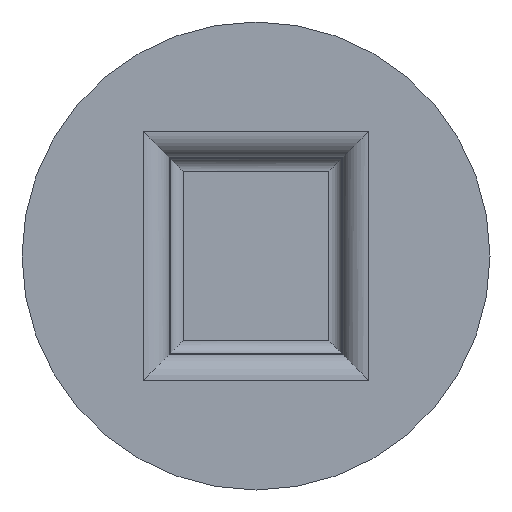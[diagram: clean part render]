
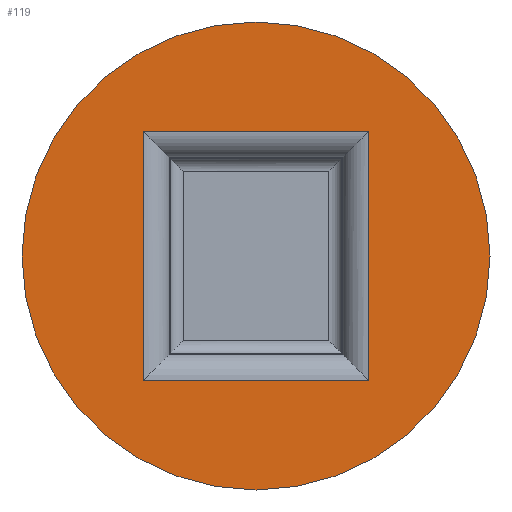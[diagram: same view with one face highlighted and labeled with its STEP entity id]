
A CAD part, front view. The second image highlights one B-rep face of the part: STEP entity #119.
In plain terms, the highlighted planar face has unit normal (0, -1, 0).
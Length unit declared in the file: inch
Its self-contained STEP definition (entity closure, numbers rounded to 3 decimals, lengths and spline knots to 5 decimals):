
#23 = CARTESIAN_POINT ( 'NONE',  ( 0.01133, -0.125, 0.38411 ) ) ;
#49 = CIRCLE ( 'NONE', #860, 0.625 ) ;
#51 = ORIENTED_EDGE ( 'NONE', *, *, #180, .T. ) ;
#82 = CARTESIAN_POINT ( 'NONE',  ( 0.01133, -0.125, 0.05114 ) ) ;
#86 = LINE ( 'NONE', #545, #833 ) ;
#89 = VERTEX_POINT ( 'NONE', #525 ) ;
#93 = ORIENTED_EDGE ( 'NONE', *, *, #326, .F. ) ;
#119 = ADVANCED_FACE ( 'NONE', ( #225, #218 ), #357, .T. ) ;
#145 = VERTEX_POINT ( 'NONE', #748 ) ;
#147 = VECTOR ( 'NONE', #820, 39.37008 ) ;
#158 = EDGE_CURVE ( 'NONE', #625, #89, #566, .T. ) ;
#162 = ORIENTED_EDGE ( 'NONE', *, *, #158, .F. ) ;
#168 = CARTESIAN_POINT ( 'NONE',  ( 0.3128, -0.125, 0.38411 ) ) ;
#180 = EDGE_CURVE ( 'NONE', #145, #247, #637, .T. ) ;
#218 = FACE_OUTER_BOUND ( 'NONE', #396, .T. ) ;
#221 = DIRECTION ( 'NONE',  ( 0., 0., -1. ) ) ;
#225 = FACE_BOUND ( 'NONE', #472, .T. ) ;
#234 = VERTEX_POINT ( 'NONE', #316 ) ;
#240 = AXIS2_PLACEMENT_3D ( 'NONE', #552, #492, #483 ) ;
#247 = VERTEX_POINT ( 'NONE', #300 ) ;
#278 = LINE ( 'NONE', #348, #696 ) ;
#300 = CARTESIAN_POINT ( 'NONE',  ( 0.01133, -0.125, 0.67614 ) ) ;
#312 = LINE ( 'NONE', #449, #493 ) ;
#316 = CARTESIAN_POINT ( 'NONE',  ( -0.29014, -0.125, -0.28183 ) ) ;
#318 = DIRECTION ( 'NONE',  ( 0., 0., -1. ) ) ;
#326 = EDGE_CURVE ( 'NONE', #89, #234, #312, .T. ) ;
#348 = CARTESIAN_POINT ( 'NONE',  ( 0.01133, -0.125, -0.28183 ) ) ;
#357 = PLANE ( 'NONE',  #240 ) ;
#389 = ORIENTED_EDGE ( 'NONE', *, *, #515, .F. ) ;
#396 = EDGE_LOOP ( 'NONE', ( #51, #648 ) ) ;
#449 = CARTESIAN_POINT ( 'NONE',  ( -0.29014, -0.125, 0.05114 ) ) ;
#454 = DIRECTION ( 'NONE',  ( 0., -1., 0. ) ) ;
#472 = EDGE_LOOP ( 'NONE', ( #389, #93, #162, #717 ) ) ;
#483 = DIRECTION ( 'NONE',  ( 0., 0., -1. ) ) ;
#492 = DIRECTION ( 'NONE',  ( 0., -1., 0. ) ) ;
#493 = VECTOR ( 'NONE', #849, 39.37008 ) ;
#515 = EDGE_CURVE ( 'NONE', #234, #733, #278, .T. ) ;
#525 = CARTESIAN_POINT ( 'NONE',  ( -0.29014, -0.125, 0.38411 ) ) ;
#545 = CARTESIAN_POINT ( 'NONE',  ( 0.3128, -0.125, 0.05114 ) ) ;
#552 = CARTESIAN_POINT ( 'NONE',  ( 0.01133, -0.125, 0.05114 ) ) ;
#560 = EDGE_CURVE ( 'NONE', #733, #625, #86, .T. ) ;
#566 = LINE ( 'NONE', #23, #147 ) ;
#573 = DIRECTION ( 'NONE',  ( 1., 0., 0. ) ) ;
#589 = CARTESIAN_POINT ( 'NONE',  ( 0.3128, -0.125, -0.28183 ) ) ;
#625 = VERTEX_POINT ( 'NONE', #168 ) ;
#637 = CIRCLE ( 'NONE', #664, 0.625 ) ;
#648 = ORIENTED_EDGE ( 'NONE', *, *, #686, .T. ) ;
#664 = AXIS2_PLACEMENT_3D ( 'NONE', #82, #697, #221 ) ;
#686 = EDGE_CURVE ( 'NONE', #247, #145, #49, .T. ) ;
#696 = VECTOR ( 'NONE', #573, 39.37008 ) ;
#697 = DIRECTION ( 'NONE',  ( 0., -1., 0. ) ) ;
#705 = DIRECTION ( 'NONE',  ( 0., 0., 1. ) ) ;
#717 = ORIENTED_EDGE ( 'NONE', *, *, #560, .F. ) ;
#733 = VERTEX_POINT ( 'NONE', #589 ) ;
#748 = CARTESIAN_POINT ( 'NONE',  ( 0.01133, -0.125, -0.57386 ) ) ;
#791 = CARTESIAN_POINT ( 'NONE',  ( 0.01133, -0.125, 0.05114 ) ) ;
#820 = DIRECTION ( 'NONE',  ( -1., 0., 0. ) ) ;
#833 = VECTOR ( 'NONE', #705, 39.37008 ) ;
#849 = DIRECTION ( 'NONE',  ( 0., 0., -1. ) ) ;
#860 = AXIS2_PLACEMENT_3D ( 'NONE', #791, #454, #318 ) ;
